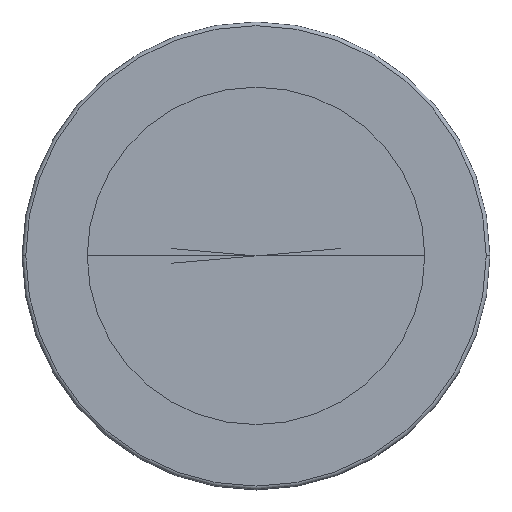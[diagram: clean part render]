
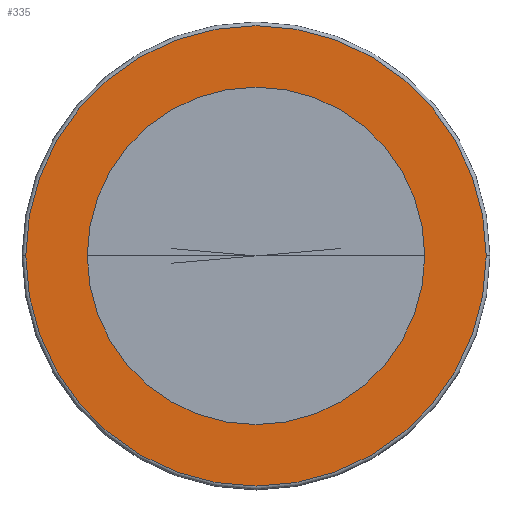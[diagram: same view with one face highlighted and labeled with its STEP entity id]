
A CAD part, top view. The second image highlights one B-rep face of the part: STEP entity #335.
In plain terms, the highlighted planar face has unit normal (0, 0, 1).
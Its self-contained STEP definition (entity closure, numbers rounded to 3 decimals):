
#9=CARTESIAN_POINT('',(0.,0.,2.456));
#10=DIRECTION('',(0.,0.,-1.));
#11=DIRECTION('',(1.,0.,0.));
#12=AXIS2_PLACEMENT_3D('',#9,#10,#11);
#14=CARTESIAN_POINT('',(0.,0.,2.456));
#15=DIRECTION('',(0.,0.,1.));
#16=DIRECTION('',(1.,0.,0.));
#17=AXIS2_PLACEMENT_3D('',#14,#15,#16);
#19=CARTESIAN_POINT('',(0.,0.,2.456));
#20=DIRECTION('',(0.,0.,-1.));
#21=DIRECTION('',(1.,0.,0.));
#22=AXIS2_PLACEMENT_3D('',#19,#20,#21);
#24=CARTESIAN_POINT('',(0.,0.,2.456));
#25=DIRECTION('',(0.,0.,-1.));
#26=DIRECTION('',(-1.,0.,0.));
#27=AXIS2_PLACEMENT_3D('',#24,#25,#26);
#254=CARTESIAN_POINT('',(2.285,0.,2.456));
#256=VERTEX_POINT('',#254);
#257=CARTESIAN_POINT('',(-2.285,0.,2.456));
#258=VERTEX_POINT('',#257);
#280=CARTESIAN_POINT('',(3.118,0.,2.456));
#281=CARTESIAN_POINT('',(-3.118,0.,2.456));
#282=VERTEX_POINT('',#280);
#283=VERTEX_POINT('',#281);
#320=CARTESIAN_POINT('',(0.,0.,2.456));
#321=DIRECTION('',(0.,0.,1.));
#322=DIRECTION('',(-1.,0.,0.));
#323=AXIS2_PLACEMENT_3D('',#320,#321,#322);
#324=PLANE('',#323);
#326=ORIENTED_EDGE('',*,*,#325,.T.);
#328=ORIENTED_EDGE('',*,*,#327,.T.);
#329=EDGE_LOOP('',(#326,#328));
#330=FACE_OUTER_BOUND('',#329,.F.);
#331=ORIENTED_EDGE('',*,*,#314,.F.);
#332=ORIENTED_EDGE('',*,*,#298,.T.);
#333=EDGE_LOOP('',(#331,#332));
#334=FACE_BOUND('',#333,.F.);
#335=ADVANCED_FACE('',(#330,#334),#324,.T.);
#13=CIRCLE('',#12,2.285);
#18=CIRCLE('',#17,2.285);
#23=CIRCLE('',#22,3.118);
#28=CIRCLE('',#27,3.118);
#298=EDGE_CURVE('',#256,#258,#18,.T.);
#314=EDGE_CURVE('',#256,#258,#13,.T.);
#325=EDGE_CURVE('',#282,#283,#23,.T.);
#327=EDGE_CURVE('',#283,#282,#28,.T.);
